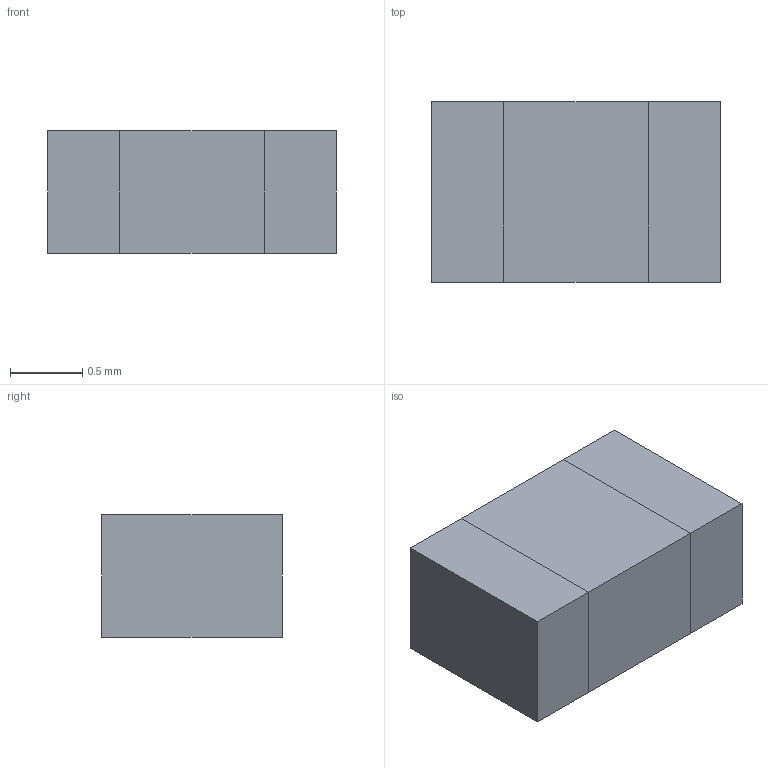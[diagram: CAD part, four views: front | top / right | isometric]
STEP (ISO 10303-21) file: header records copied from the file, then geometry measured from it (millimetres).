
FILE_DESCRIPTION(('Open CASCADE Model'),'2;1');
FILE_NAME('Open CASCADE Shape Model','2026-10-04T11:30:07',('Author'),( 'Open CASCADE'),'Open CASCADE STEP processor 7.9','Open CASCADE 7.9' ,'Unknown');
FILE_SCHEMA(('AUTOMOTIVE_DESIGN { 1 0 10303 214 1 1 1 1 }'));
Length unit declared in the file: millimetre
Products named in the file (4): TDK_MPZ2012S300AT000_Drawing_Derived_Nominal; Ferrite_Body; Pin1_End_Electrode; Pin2_End_Electrode
Assembly tree (3 placements, depth 2):
  TDK_MPZ2012S300AT000_Drawing_Derived_Nominal
    Ferrite_Body
    Pin1_End_Electrode
    Pin2_End_Electrode
Bounding box: 2 x 1.25 x 0.85 mm (x, y, z)
Volume: 2.1 mm3; surface area: 14.8 mm2
Topology: 3 solids, 3 shells, 18 faces, 36 edges, 24 vertices
Faces by surface type: plane 18
Entity records: 1014 total; most frequent: CARTESIAN_POINT 154, DIRECTION 152, LINE 108, VECTOR 108, ORIENTED_EDGE 72, PCURVE 72, DEFINITIONAL_REPRESENTATION 72, EDGE_CURVE 36
